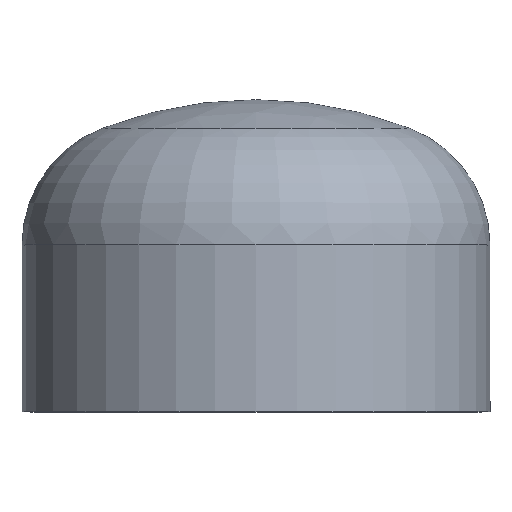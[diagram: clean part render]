
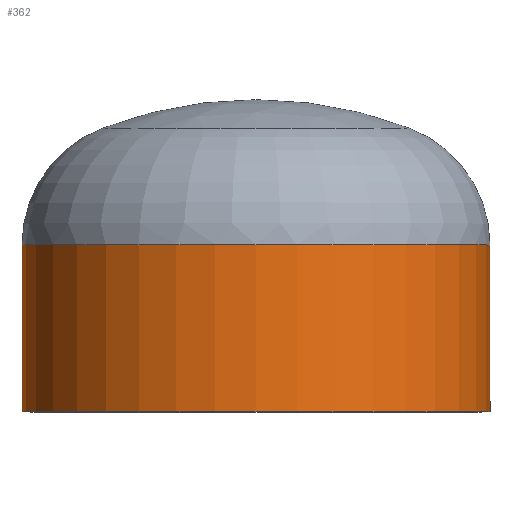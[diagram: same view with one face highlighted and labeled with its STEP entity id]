
A CAD part, top view. The second image highlights one B-rep face of the part: STEP entity #362.
In plain terms, the highlighted cylindrical face has radius 84.15 mm (diameter 168.3 mm), a partial arc.
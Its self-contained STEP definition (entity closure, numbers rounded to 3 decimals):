
#7 = ORIENTED_EDGE ( 'NONE', *, *, #358, .T. ) ;
#17 = VERTEX_POINT ( 'NONE', #42 ) ;
#23 = ORIENTED_EDGE ( 'NONE', *, *, #353, .F. ) ;
#25 = AXIS2_PLACEMENT_3D ( 'NONE', #300, #83, #205 ) ;
#27 = CARTESIAN_POINT ( 'NONE',  ( -84.15, 0., 0. ) ) ;
#42 = CARTESIAN_POINT ( 'NONE',  ( 84.15, 60., 0. ) ) ;
#48 = ORIENTED_EDGE ( 'NONE', *, *, #408, .T. ) ;
#54 = VERTEX_POINT ( 'NONE', #139 ) ;
#74 = VERTEX_POINT ( 'NONE', #220 ) ;
#75 = VERTEX_POINT ( 'NONE', #27 ) ;
#83 = DIRECTION ( 'NONE',  ( 0., -1., 0. ) ) ;
#121 = ORIENTED_EDGE ( 'NONE', *, *, #349, .F. ) ;
#138 = FACE_OUTER_BOUND ( 'NONE', #226, .T. ) ;
#139 = CARTESIAN_POINT ( 'NONE',  ( 84.15, 0., 0. ) ) ;
#155 = CARTESIAN_POINT ( 'NONE',  ( 84.15, 0., 0. ) ) ;
#205 = DIRECTION ( 'NONE',  ( 1., 0., 0. ) ) ;
#220 = CARTESIAN_POINT ( 'NONE',  ( -84.15, 60., 0. ) ) ;
#221 = LINE ( 'NONE', #255, #397 ) ;
#226 = EDGE_LOOP ( 'NONE', ( #48, #7, #23, #121 ) ) ;
#227 = CARTESIAN_POINT ( 'NONE',  ( 0., 60., 0. ) ) ;
#231 = DIRECTION ( 'NONE',  ( 0., -1., 0. ) ) ;
#235 = DIRECTION ( 'NONE',  ( 0., -1., 0. ) ) ;
#255 = CARTESIAN_POINT ( 'NONE',  ( -84.15, 0., 0. ) ) ;
#267 = CIRCLE ( 'NONE', #361, 84.15 ) ;
#300 = CARTESIAN_POINT ( 'NONE',  ( 0., 0., 0. ) ) ;
#303 = AXIS2_PLACEMENT_3D ( 'NONE', #368, #348, #407 ) ;
#332 = CYLINDRICAL_SURFACE ( 'NONE', #303, 84.15 ) ;
#347 = LINE ( 'NONE', #155, #411 ) ;
#348 = DIRECTION ( 'NONE',  ( 0., -1., 0. ) ) ;
#349 = EDGE_CURVE ( 'NONE', #17, #54, #347, .T. ) ;
#353 = EDGE_CURVE ( 'NONE', #54, #75, #402, .T. ) ;
#358 = EDGE_CURVE ( 'NONE', #74, #75, #221, .T. ) ;
#361 = AXIS2_PLACEMENT_3D ( 'NONE', #227, #235, #390 ) ;
#362 = ADVANCED_FACE ( 'NONE', ( #138 ), #332, .T. ) ;
#368 = CARTESIAN_POINT ( 'NONE',  ( 0., 0., 0. ) ) ;
#387 = DIRECTION ( 'NONE',  ( 0., -1., 0. ) ) ;
#390 = DIRECTION ( 'NONE',  ( 1., 0., 0. ) ) ;
#397 = VECTOR ( 'NONE', #387, 1000. ) ;
#402 = CIRCLE ( 'NONE', #25, 84.15 ) ;
#407 = DIRECTION ( 'NONE',  ( 1., 0., 0. ) ) ;
#408 = EDGE_CURVE ( 'NONE', #17, #74, #267, .T. ) ;
#411 = VECTOR ( 'NONE', #231, 1000. ) ;
